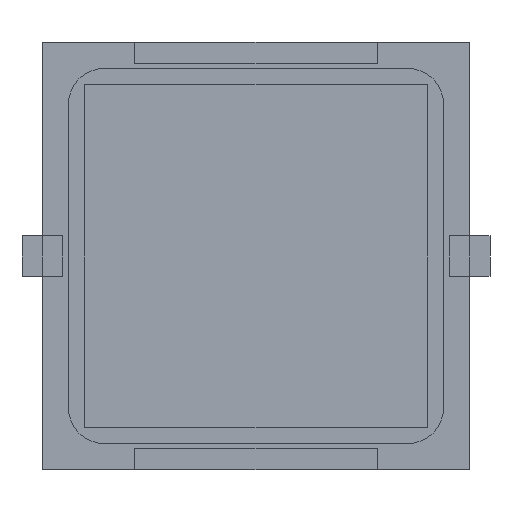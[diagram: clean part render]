
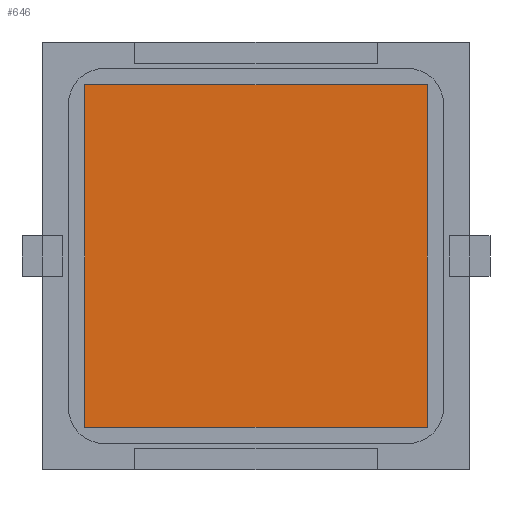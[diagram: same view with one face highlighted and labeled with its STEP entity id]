
A CAD part, front view. The second image highlights one B-rep face of the part: STEP entity #646.
In plain terms, the highlighted planar face has unit normal (0, -1, 0).
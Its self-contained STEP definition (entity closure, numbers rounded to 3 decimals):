
#133 = EDGE_CURVE ( 'NONE', #237, #2571, #2236, .T. ) ;
#205 = CARTESIAN_POINT ( 'NONE',  ( -8.5, -0.1, 8.5 ) ) ;
#214 = EDGE_LOOP ( 'NONE', ( #2161, #2255, #4408, #2976 ) ) ;
#237 = VERTEX_POINT ( 'NONE', #3384 ) ;
#246 = CARTESIAN_POINT ( 'NONE',  ( 8.5, -0.1, -8.5 ) ) ;
#479 = CARTESIAN_POINT ( 'NONE',  ( -8.5, -0.1, -8.5 ) ) ;
#646 = ADVANCED_FACE ( 'NONE', ( #4272 ), #4606, .F. ) ;
#783 = LINE ( 'NONE', #479, #2763 ) ;
#1002 = EDGE_CURVE ( 'NONE', #3935, #237, #3573, .T. ) ;
#1022 = VERTEX_POINT ( 'NONE', #2862 ) ;
#1032 = DIRECTION ( 'NONE',  ( 0., 0., 1. ) ) ;
#1442 = DIRECTION ( 'NONE',  ( -1., 0., 0. ) ) ;
#2054 = DIRECTION ( 'NONE',  ( 0., 1., 0. ) ) ;
#2161 = ORIENTED_EDGE ( 'NONE', *, *, #3030, .F. ) ;
#2236 = LINE ( 'NONE', #4140, #4178 ) ;
#2255 = ORIENTED_EDGE ( 'NONE', *, *, #133, .F. ) ;
#2571 = VERTEX_POINT ( 'NONE', #3138 ) ;
#2763 = VECTOR ( 'NONE', #3464, 1000. ) ;
#2830 = LINE ( 'NONE', #4060, #3751 ) ;
#2862 = CARTESIAN_POINT ( 'NONE',  ( -8.5, -0.1, 8.5 ) ) ;
#2973 = VECTOR ( 'NONE', #3191, 1000. ) ;
#2976 = ORIENTED_EDGE ( 'NONE', *, *, #4632, .F. ) ;
#3030 = EDGE_CURVE ( 'NONE', #2571, #1022, #783, .T. ) ;
#3138 = CARTESIAN_POINT ( 'NONE',  ( -8.5, -0.1, -8.5 ) ) ;
#3191 = DIRECTION ( 'NONE',  ( 0., 0., -1. ) ) ;
#3384 = CARTESIAN_POINT ( 'NONE',  ( 8.5, -0.1, -8.5 ) ) ;
#3464 = DIRECTION ( 'NONE',  ( 0., 0., 1. ) ) ;
#3474 = CARTESIAN_POINT ( 'NONE',  ( 8.5, -0.1, 8.5 ) ) ;
#3573 = LINE ( 'NONE', #246, #2973 ) ;
#3643 = DIRECTION ( 'NONE',  ( 1., 0., 0. ) ) ;
#3751 = VECTOR ( 'NONE', #3643, 1000. ) ;
#3935 = VERTEX_POINT ( 'NONE', #3474 ) ;
#4060 = CARTESIAN_POINT ( 'NONE',  ( -8.5, -0.1, 8.5 ) ) ;
#4140 = CARTESIAN_POINT ( 'NONE',  ( -8.5, -0.1, -8.5 ) ) ;
#4178 = VECTOR ( 'NONE', #1442, 1000. ) ;
#4272 = FACE_OUTER_BOUND ( 'NONE', #214, .T. ) ;
#4408 = ORIENTED_EDGE ( 'NONE', *, *, #1002, .F. ) ;
#4606 = PLANE ( 'NONE',  #4667 ) ;
#4632 = EDGE_CURVE ( 'NONE', #1022, #3935, #2830, .T. ) ;
#4667 = AXIS2_PLACEMENT_3D ( 'NONE', #205, #2054, #1032 ) ;
